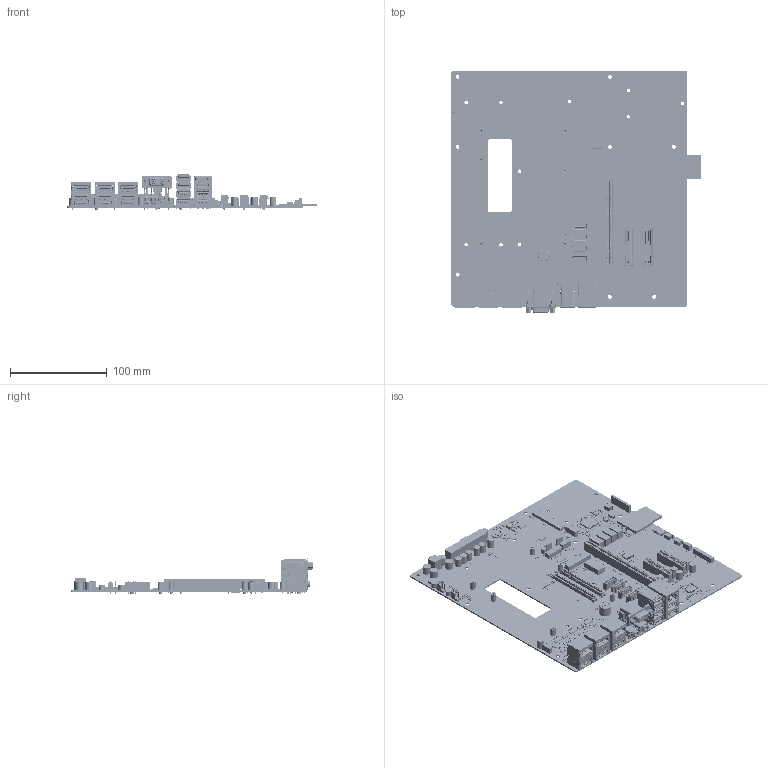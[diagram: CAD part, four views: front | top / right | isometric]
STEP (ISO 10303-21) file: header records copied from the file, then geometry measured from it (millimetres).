
FILE_DESCRIPTION((''),'2;1');
FILE_NAME('00_EEV-EX16_ASM','2020-06-18T17:33:57',('owen_lee'),(''),'CREO PARAMETRIC BY PTC INC, 2018300','CREO PARAMETRIC BY PTC INC, 2018300','');
FILE_SCHEMA(('CONFIG_CONTROL_DESIGN','GEOMETRIC_VALIDATION_PROPERTIES_MIM'));
Products named in the file (83): EEV-EX16_PCB; E16F1439030H; E1652506309R; E16H1671300R; E1652522309R; FOXCONN_QT002206-2131-3H_COME_1; E16D5Z00300H; E16E1154300R; E193A3108X0R; E1213008000H; E1315700214H; E1301055140R; E14S4120400H; E1600022001R; E1613520000R; 0030000033; E1660210201H; E1755100003R; 0030000030; E0030100001; A-R0603; E1213103000H; E130550944KH; A-R0402; E1212206813H; E1752511003H; E1213108003H; E1183610723H; E1186610730H; E1181656720H; E1183627722H; E1304100040H; E1301014040R; A-C0603; A-C0805; A-C0402; E1305230240H; E1614310000R; E1315233310H; E1315700210H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
Assembly tree (1059 placements, depth 2):
  00_EEV-EX16_ASM
    EEV-EX16_PCB
    E16F1439030H  x3
    E1652506309R
    E16H1671300R  x2
    E1652522309R  x2
    FOXCONN_QT002206-2131-3H_COME_1  x2
    E16D5Z00300H
    E16E1154300R
    E193A3108X0R  x6
    E1213008000H  x8
    E1315700214H  x4
    E1301055140R  x3
    E14S4120400H  x3
    E1600022001R
    E1613520000R
    0030000033  x8
    E1660210201H
    E1755100003R
    0030000030  x2
    E0030100001
    A-R0603  x20
    E1213103000H  x13
    E130550944KH
    A-R0402  x471
    E1212206813H
    E1752511003H
    E1213108003H
    E1183610723H  x6
    E1186610730H  x4
    E1181656720H  x8
    E1183627722H  x9
    E1304100040H
    E1301014040R  x8
    A-C0603  x55
    A-C0805  x34
    A-C0402  x243
    E1305230240H  x6
    E1614310000R  x2
    E1315233310H  x3
    E1315700210H  x11
    E1213009001H  x8
    E1667220301R
    E1233312250H
    E14S9069200H
    E1600020201R
    E1213006700H  x12
    E1601020401R  x3
    E1655004006R  x2
    E14S5F10700H
    E14S5C10801H  x3
    E1662510201H
    E14S5910800H
    E1305422040H  x6
    E1315065410H
    E1613420000R
    E1685008100H
    E14S0230500H
    E14S5907400H
    E1060701021H  x8
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Bounding box: 257.51 x 250.84 x 37.29 mm (x, y, z)
Volume: 169355.6 mm3; surface area: 267156.9 mm2
Topology: 1184 solids, 1232 shells, 51566 faces, 164944 edges, 136461 vertices
Faces by surface type: plane 40148, cylinder 9236, bspline 1006, torus 771, extrusion 193, cone 142, sphere 70
Entity records: 1146918 total; most frequent: CARTESIAN_POINT 192308, DIRECTION 155466, ORIENTED_EDGE 133280, VECTOR 73358, LINE 73206, EDGE_CURVE 66693, PRESENTATION_STYLE_ASSIGNMENT 51592, STYLED_ITEM 51549
